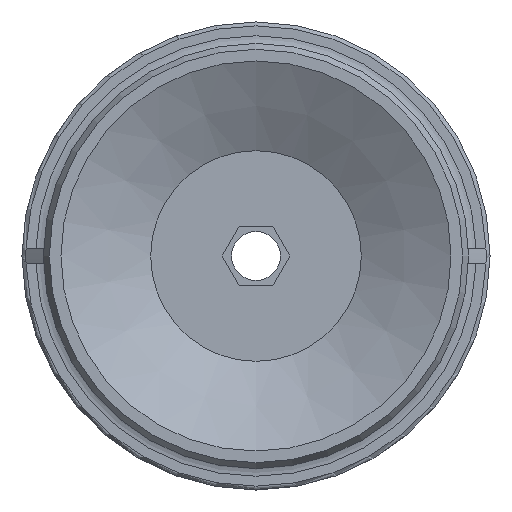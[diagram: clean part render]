
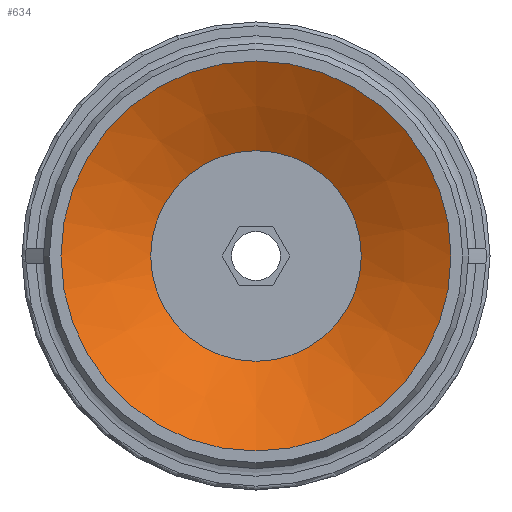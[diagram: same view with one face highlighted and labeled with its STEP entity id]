
A CAD part, front view. The second image highlights one B-rep face of the part: STEP entity #634.
In plain terms, the highlighted conical face has half-angle 61.631 degrees and reference radius 5.4 mm.
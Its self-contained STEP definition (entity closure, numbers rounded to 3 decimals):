
#634=ADVANCED_FACE('',(#980,#981),#982,.F.);
#980=FACE_BOUND('',#1407,.T.);
#981=FACE_OUTER_BOUND('',#1408,.T.);
#982=CONICAL_SURFACE('',#1409,5.4,1.076);
#1407=EDGE_LOOP('',(#2594));
#1408=EDGE_LOOP('',(#2595));
#1409=AXIS2_PLACEMENT_3D('',#2596,#2597,#2598);
#2594=ORIENTED_EDGE('',*,*,#3172,.F.);
#2595=ORIENTED_EDGE('',*,*,#3174,.T.);
#2596=CARTESIAN_POINT('',(0.0,2.484,0.0));
#2597=DIRECTION('',(-0.0,-1.0,0.));
#2598=DIRECTION('',(0.0,0.,-1.0));
#3172=EDGE_CURVE('',#3665,#3665,#3666,.T.);
#3174=EDGE_CURVE('',#3669,#3669,#3670,.T.);
#3665=VERTEX_POINT('',#4659);
#3666=CIRCLE('',#4660,5.4);
#3669=VERTEX_POINT('',#4663);
#3670=CIRCLE('',#4664,10.0);
#4659=CARTESIAN_POINT('',(0.0,2.484,-5.4));
#4660=AXIS2_PLACEMENT_3D('',#5501,#5502,#5503);
#4663=CARTESIAN_POINT('',(0.0,0.,-10.0));
#4664=AXIS2_PLACEMENT_3D('',#5507,#5508,#5509);
#5501=CARTESIAN_POINT('',(0.0,2.484,0.0));
#5502=DIRECTION('',(0.0,-1.0,0.));
#5503=DIRECTION('',(0.0,0.,-1.0));
#5507=CARTESIAN_POINT('',(0.0,0.0,0.0));
#5508=DIRECTION('',(0.0,-1.0,0.));
#5509=DIRECTION('',(0.0,0.,-1.0));
